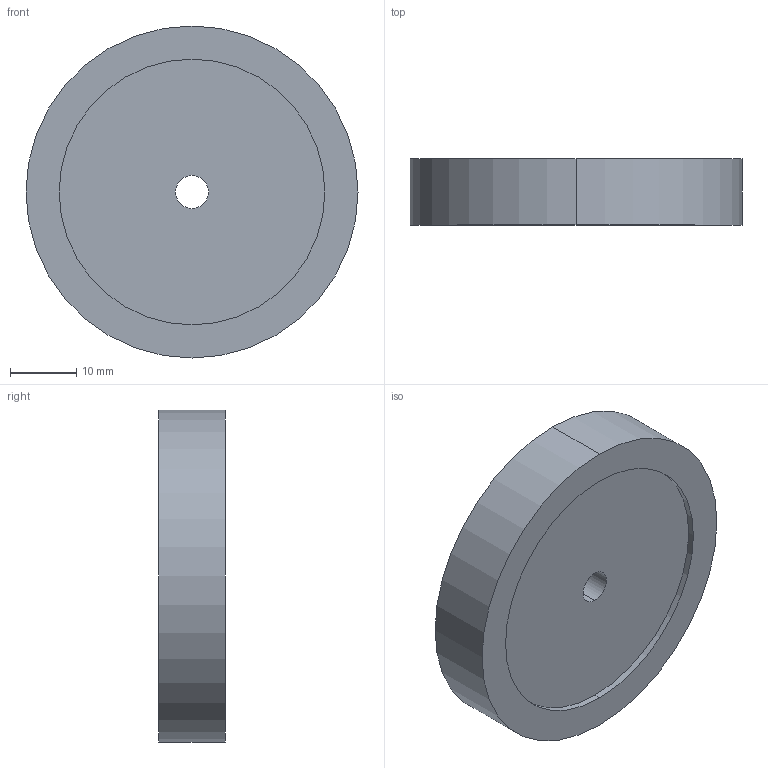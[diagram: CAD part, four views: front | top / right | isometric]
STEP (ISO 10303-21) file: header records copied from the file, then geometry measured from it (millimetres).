
FILE_DESCRIPTION (( 'STEP AP203' ), '1' );
FILE_NAME ('謫.STEP', '2024-10-23T13:45:40', ( '' ), ( '' ), 'SwSTEP 2.0', 'SolidWorks 2023', '' );
FILE_SCHEMA (( 'CONFIG_CONTROL_DESIGN' ));
Length unit declared in the file: millimetre
Products named in the file (1): 轮
Bounding box: 50 x 10 x 50 mm (x, y, z)
Volume: 16964.6 mm3; surface area: 5835.5 mm2
Topology: 1 solids, 1 shells, 12 faces, 24 edges, 16 vertices
Faces by surface type: cylinder 8, plane 4
Entity records: 405 total; most frequent: DIRECTION 66, CARTESIAN_POINT 53, ORIENTED_EDGE 48, AXIS2_PLACEMENT_3D 29, EDGE_CURVE 24, VERTEX_POINT 16, EDGE_LOOP 16, CIRCLE 16
